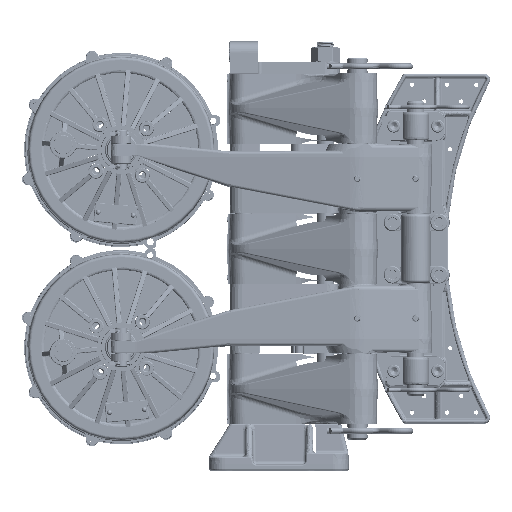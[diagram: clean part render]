
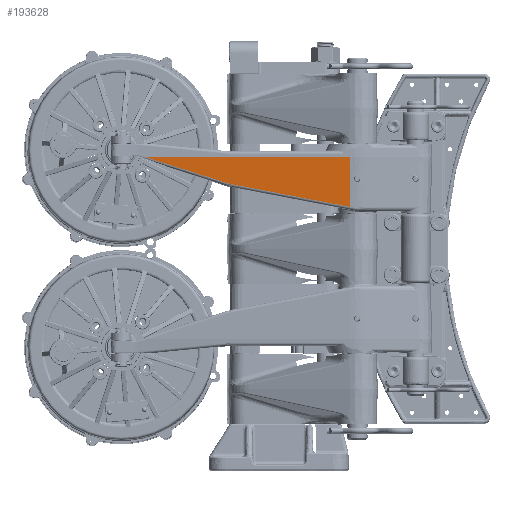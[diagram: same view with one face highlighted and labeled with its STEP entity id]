
A CAD part, top view. The second image highlights one B-rep face of the part: STEP entity #193628.
In plain terms, the highlighted planar face has unit normal (-0.077, -0.035, 0.996).
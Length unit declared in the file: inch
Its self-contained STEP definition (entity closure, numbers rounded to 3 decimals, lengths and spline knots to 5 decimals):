
#10061 = CARTESIAN_POINT ( 'NONE',  ( 0.10733, 3.908, 4.69316 ) ) ;
#12981 = CARTESIAN_POINT ( 'NONE',  ( -0.28683, 1.81625, 4.58928 ) ) ;
#24504 = CARTESIAN_POINT ( 'NONE',  ( -0.11298, 3.908, 4.67605 ) ) ;
#28151 = ORIENTED_EDGE ( 'NONE', *, *, #410371, .T. ) ;
#36827 = DIRECTION ( 'NONE',  ( 0.951, -0.302, 0.063 ) ) ;
#51478 = VERTEX_POINT ( 'NONE', #248840 ) ;
#65491 = ORIENTED_EDGE ( 'NONE', *, *, #78434, .T. ) ;
#73334 = DIRECTION ( 'NONE',  ( -0.003, 0.999, 0.035 ) ) ;
#75975 = ORIENTED_EDGE ( 'NONE', *, *, #346534, .T. ) ;
#78434 = EDGE_CURVE ( 'NONE', #218745, #51478, #103123, .T. ) ;
#86391 = CARTESIAN_POINT ( 'NONE',  ( -5.20177, 2.75973, 4.24051 ) ) ;
#103123 = LINE ( 'NONE', #306509, #304987 ) ;
#115486 = VECTOR ( 'NONE', #73334, 39.37008 ) ;
#118924 = CARTESIAN_POINT ( 'NONE',  ( -5.25479, 2.76991, 4.23675 ) ) ;
#131416 = VERTEX_POINT ( 'NONE', #24504 ) ;
#133577 =( BOUNDED_CURVE ( )  B_SPLINE_CURVE ( 3, ( #359808, #216244, #118924, #384363 ),
 .UNSPECIFIED., .F., .F. ) 
 B_SPLINE_CURVE_WITH_KNOTS ( ( 4, 4 ),
 ( 3.96129, 4.07904 ),
 .UNSPECIFIED. ) 
 CURVE ( )  GEOMETRIC_REPRESENTATION_ITEM ( )  RATIONAL_B_SPLINE_CURVE ( ( 1., 0.999, 0.999, 1. ) ) 
 REPRESENTATION_ITEM ( '' )  );
#140516 = VERTEX_POINT ( 'NONE', #86391 ) ;
#154033 = VERTEX_POINT ( 'NONE', #412122 ) ;
#185572 = ORIENTED_EDGE ( 'NONE', *, *, #252971, .T. ) ;
#186542 = EDGE_LOOP ( 'NONE', ( #397707, #28151, #65491, #403119, #75975, #185572 ) ) ;
#193628 = ADVANCED_FACE ( 'NONE', ( #396014 ), #418894, .T. ) ;
#216215 = DIRECTION ( 'NONE',  ( 0.98, -0.188, 0.07 ) ) ;
#216244 = CARTESIAN_POINT ( 'NONE',  ( -5.30712, 2.78319, 4.23315 ) ) ;
#218745 = VERTEX_POINT ( 'NONE', #262345 ) ;
#234798 = CARTESIAN_POINT ( 'NONE',  ( -0.10723, 1.78178, 4.60202 ) ) ;
#241774 = VECTOR ( 'NONE', #216215, 39.37008 ) ;
#248840 = CARTESIAN_POINT ( 'NONE',  ( -5.35858, 2.79953, 4.22972 ) ) ;
#252971 = EDGE_CURVE ( 'NONE', #358206, #131416, #340831, .T. ) ;
#253740 = CARTESIAN_POINT ( 'NONE',  ( -8.83731, 3.90403, 3.99817 ) ) ;
#262345 = CARTESIAN_POINT ( 'NONE',  ( -8.83731, 3.90403, 3.99817 ) ) ;
#278985 = CARTESIAN_POINT ( 'NONE',  ( 0.10733, 3.908, 4.69316 ) ) ;
#289095 = CARTESIAN_POINT ( 'NONE',  ( -8.82232, 3.908, 3.99947 ) ) ;
#301346 = EDGE_CURVE ( 'NONE', #154033, #131416, #338810, .T. ) ;
#304987 = VECTOR ( 'NONE', #36827, 39.37008 ) ;
#306509 = CARTESIAN_POINT ( 'NONE',  ( -0.70364, 1.32158, 4.53957 ) ) ;
#319515 = AXIS2_PLACEMENT_3D ( 'NONE', #10061, #385707, #350339 ) ;
#320258 = CARTESIAN_POINT ( 'NONE',  ( -8.83149, 3.908, 3.99876 ) ) ;
#336537 = CARTESIAN_POINT ( 'NONE',  ( -0.11298, 3.908, 4.67605 ) ) ;
#338810 = LINE ( 'NONE', #278985, #391938 ) ;
#338897 =( BOUNDED_CURVE ( )  B_SPLINE_CURVE ( 3, ( #289095, #320258, #357663, #253740 ),
 .UNSPECIFIED., .F., .F. ) 
 B_SPLINE_CURVE_WITH_KNOTS ( ( 4, 4 ),
 ( 3.07502, 3.14158 ),
 .UNSPECIFIED. ) 
 CURVE ( )  GEOMETRIC_REPRESENTATION_ITEM ( )  RATIONAL_B_SPLINE_CURVE ( ( 1., 1., 1., 1. ) ) 
 REPRESENTATION_ITEM ( '' )  );
#340831 = LINE ( 'NONE', #336537, #115486 ) ;
#346534 = EDGE_CURVE ( 'NONE', #140516, #358206, #433460, .T. ) ;
#350339 = DIRECTION ( 'NONE',  ( -0.997, 0., -0.077 ) ) ;
#357663 = CARTESIAN_POINT ( 'NONE',  ( -8.83648, 3.90668, 3.99833 ) ) ;
#358206 = VERTEX_POINT ( 'NONE', #234798 ) ;
#359808 = CARTESIAN_POINT ( 'NONE',  ( -5.35858, 2.79953, 4.22972 ) ) ;
#380714 = DIRECTION ( 'NONE',  ( 0.997, 0., 0.077 ) ) ;
#384363 = CARTESIAN_POINT ( 'NONE',  ( -5.20177, 2.75973, 4.24051 ) ) ;
#385707 = DIRECTION ( 'NONE',  ( -0.077, -0.035, 0.996 ) ) ;
#391938 = VECTOR ( 'NONE', #380714, 39.37008 ) ;
#396014 = FACE_OUTER_BOUND ( 'NONE', #186542, .T. ) ;
#397707 = ORIENTED_EDGE ( 'NONE', *, *, #301346, .F. ) ;
#403119 = ORIENTED_EDGE ( 'NONE', *, *, #414824, .T. ) ;
#410371 = EDGE_CURVE ( 'NONE', #154033, #218745, #338897, .T. ) ;
#412122 = CARTESIAN_POINT ( 'NONE',  ( -8.82232, 3.908, 3.99947 ) ) ;
#414824 = EDGE_CURVE ( 'NONE', #51478, #140516, #133577, .T. ) ;
#418894 = PLANE ( 'NONE',  #319515 ) ;
#433460 = LINE ( 'NONE', #12981, #241774 ) ;
